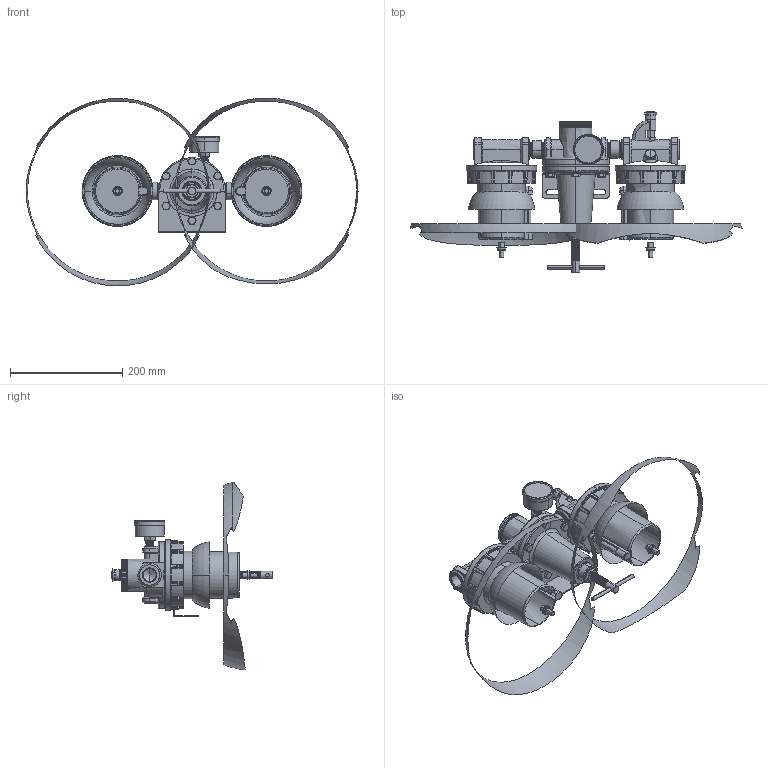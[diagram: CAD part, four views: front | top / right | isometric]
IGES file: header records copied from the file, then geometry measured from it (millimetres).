
Start section: SolidWorks IGES file using analytic representation for surfaces
Global section: file name: D:\Custom\3D繪製\FRL\FRL系列\C628W-06#YB#.IGS; native system: SolidWorks 2014; preprocessor: SolidWorks 2014; author: Chieh_Lu; date: 160115.013149; units: millimetre
Bounding box: 591.81 x 287 x 334.67 mm (x, y, z)
Surface area: 428476.4 mm2 (no closed solid volume)
Topology: 0 solids, 0 shells, 1706 faces, 20558 edges, 20527 vertices
Faces by surface type: bspline 883, revolution 823
